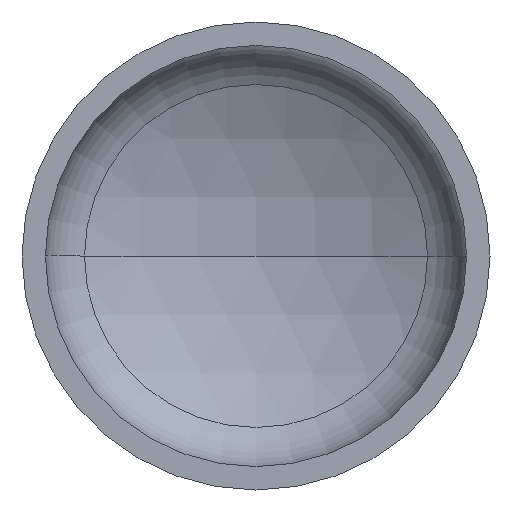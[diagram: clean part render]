
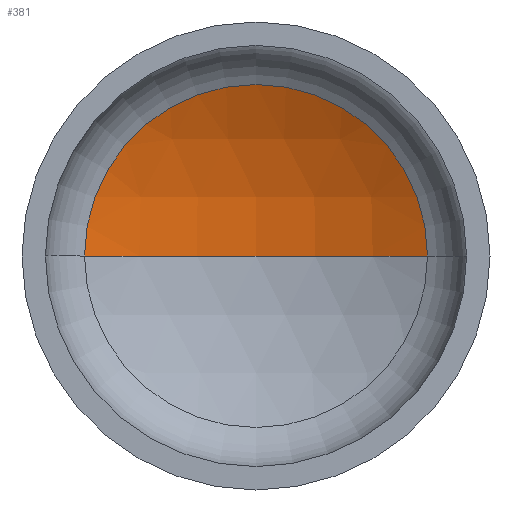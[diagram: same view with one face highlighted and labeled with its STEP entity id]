
A CAD part, front view. The second image highlights one B-rep face of the part: STEP entity #381.
In plain terms, the highlighted spherical face has radius 960 mm.
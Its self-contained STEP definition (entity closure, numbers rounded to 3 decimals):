
#3 = AXIS2_PLACEMENT_3D ( 'NONE', #199, #365, #285 ) ;
#4 = AXIS2_PLACEMENT_3D ( 'NONE', #76, #338, #146 ) ;
#13 = EDGE_LOOP ( 'NONE', ( #167, #71, #139 ) ) ;
#14 = AXIS2_PLACEMENT_3D ( 'NONE', #128, #125, #126 ) ;
#61 = FACE_OUTER_BOUND ( 'NONE', #13, .T. ) ;
#65 = VERTEX_POINT ( 'NONE', #237 ) ;
#71 = ORIENTED_EDGE ( 'NONE', *, *, #339, .T. ) ;
#76 = CARTESIAN_POINT ( 'NONE',  ( 0., 284.45, 0. ) ) ;
#77 = CIRCLE ( 'NONE', #14, 960. ) ;
#79 = VERTEX_POINT ( 'NONE', #303 ) ;
#88 = DIRECTION ( 'NONE',  ( -1., 0., 0. ) ) ;
#101 = AXIS2_PLACEMENT_3D ( 'NONE', #127, #231, #88 ) ;
#106 = VERTEX_POINT ( 'NONE', #216 ) ;
#125 = DIRECTION ( 'NONE',  ( 0., 0., 1. ) ) ;
#126 = DIRECTION ( 'NONE',  ( 1., 0., 0. ) ) ;
#127 = CARTESIAN_POINT ( 'NONE',  ( 0., -568.912, 0. ) ) ;
#128 = CARTESIAN_POINT ( 'NONE',  ( 0., -568.912, 0. ) ) ;
#139 = ORIENTED_EDGE ( 'NONE', *, *, #335, .T. ) ;
#146 = DIRECTION ( 'NONE',  ( 1., 0., 0. ) ) ;
#167 = ORIENTED_EDGE ( 'NONE', *, *, #329, .F. ) ;
#177 = CIRCLE ( 'NONE', #4, 439.742 ) ;
#199 = CARTESIAN_POINT ( 'NONE',  ( 0., -568.912, 0. ) ) ;
#216 = CARTESIAN_POINT ( 'NONE',  ( -439.742, 284.45, 0. ) ) ;
#231 = DIRECTION ( 'NONE',  ( 0., 0., -1. ) ) ;
#232 = SPHERICAL_SURFACE ( 'NONE', #101, 960. ) ;
#237 = CARTESIAN_POINT ( 'NONE',  ( 0., 391.088, 0. ) ) ;
#285 = DIRECTION ( 'NONE',  ( -1., 0., 0. ) ) ;
#303 = CARTESIAN_POINT ( 'NONE',  ( 439.742, 284.45, 0. ) ) ;
#329 = EDGE_CURVE ( 'NONE', #65, #106, #77, .T. ) ;
#335 = EDGE_CURVE ( 'NONE', #79, #106, #177, .T. ) ;
#338 = DIRECTION ( 'NONE',  ( 0., -1., 0. ) ) ;
#339 = EDGE_CURVE ( 'NONE', #65, #79, #376, .T. ) ;
#365 = DIRECTION ( 'NONE',  ( 0., 0., -1. ) ) ;
#376 = CIRCLE ( 'NONE', #3, 960. ) ;
#381 = ADVANCED_FACE ( 'NONE', ( #61 ), #232, .F. ) ;
